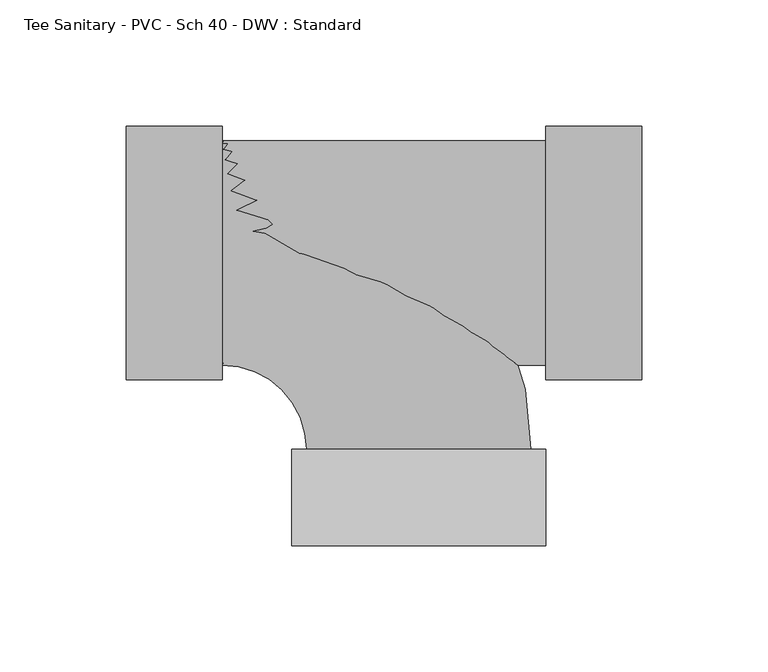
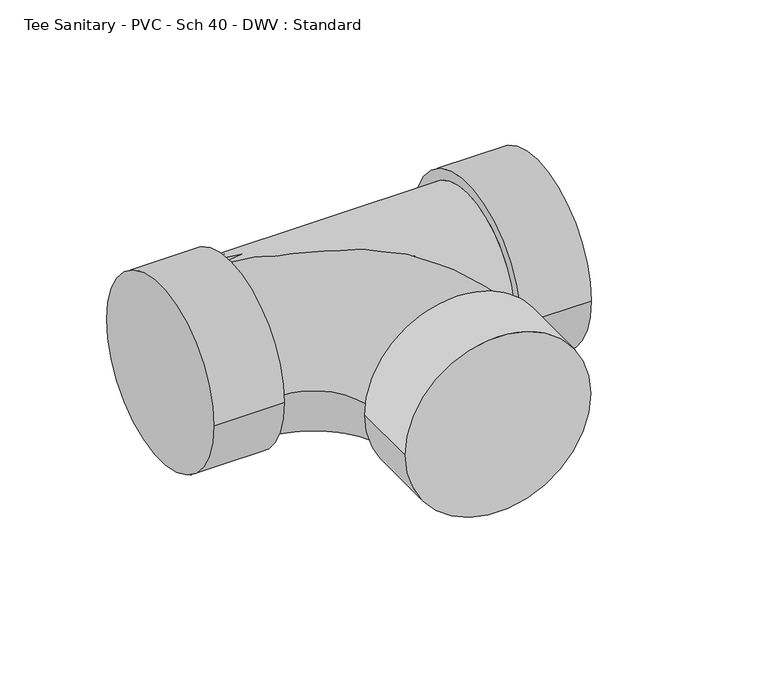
"""IFC4 building model written with IfcOpenShell, lengths in millimetres: pipe fitting geometry, Tee Sanitary - PVC - Sch 40 - DWV : Standard."""

from ifc_helpers import new_model, si_unit, point, frame, origin, place, context, project, spatial, circle_curve, ellipse_curve, trimmed, source, transform, mapped, element, save
from ifc_brep_helpers import plane_surface, cylinder_surface, revolved_surface, advanced_brep


def tee_sanitary_pvc_sch_40_dwv_standard_95650df0(model_context):
    return source(origin(), model_context, "Body", "AdvancedBrep", [
        advanced_brep(
        [(-77.8002, -44.45, 0.0), (-77.8002, 44.45, 0.0), (-44.4405858, -77.8055779, 0.0), (44.4594135, -77.794821, 0.0), (50.2806236, -115.8941169, 0.0), (-50.2525757, -115.9062814, 0.0), (50.2760135, -77.7941172, 0.0), (-50.2571858, -77.8062817, 0.0)],
        [
            (0, 1, circle_curve(frame((-77.8002, 0.0, 0.0), z_axis=(-1.0, 0.0, 0.0), x_axis=(0.0, 1.0, 0.0)), 44.45)),
            (1, 0, circle_curve(frame((-77.8002, 0.0, 0.0), z_axis=(-1.0, 0.0, 0.0), x_axis=(0.0, 1.0, 0.0)), 44.45)),
            (0, 2, circle_curve(frame((-77.8002, -77.8096144, 0.0), z_axis=(0.0, 0.0, -1.0), x_axis=(0.0, 1.0, 0.0)), 33.3596144)),
            (2, 3, circle_curve(frame((0.0094138, -77.8001994, 0.0), z_axis=(-0.00012100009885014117, 0.999999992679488, 0.0), x_axis=(0.999999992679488, 0.00012100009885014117, 0.0)), 44.45)),
            (3, 1, circle_curve(frame((-77.8002, -77.8096144, 0.0), z_axis=(0.0, 0.0, 1.0), x_axis=(0.0, 1.0, 0.0)), 122.2596144)),
            (3, 2, circle_curve(frame((0.0094138, -77.8001994, 0.0), z_axis=(-0.00012100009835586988, 0.9999999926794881, 0.0), x_axis=(0.9999999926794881, 0.00012100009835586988, 0.0)), 44.45)),
            (4, 5, circle_curve(frame((0.0140239, -115.9001992, 0.0), z_axis=(0.00012100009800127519, -0.9999999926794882, 0.0), x_axis=(-0.9999999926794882, -0.00012100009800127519, 0.0)), 50.2666)),
            (5, 4, circle_curve(frame((0.0140239, -115.9001992, 0.0), z_axis=(0.00012100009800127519, -0.9999999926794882, 0.0), x_axis=(-0.9999999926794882, -0.00012100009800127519, 0.0)), 50.2666)),
            (6, 7, circle_curve(frame((0.0094138, -77.8001994, 0.0), z_axis=(-0.00012100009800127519, 0.9999999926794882, 0.0), x_axis=(-0.9999999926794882, -0.00012100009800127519, 0.0)), 50.2666)),
            (7, 6, circle_curve(frame((0.0094138, -77.8001994, 0.0), z_axis=(-0.00012100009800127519, 0.9999999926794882, 0.0), x_axis=(-0.9999999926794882, -0.00012100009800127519, 0.0)), 50.2666)),
            (4, 6),
            (7, 5),
        ],
        [
            plane_surface(frame((-77.8002, 0.0, 0.0), z_axis=(-1.0, 0.0, 0.0), x_axis=(0.0, 0.0, 1.0))),
            revolved_surface(trimmed(ellipse_curve(frame((-77.8002, 0.0, 0.0), z_axis=(-1.0, 0.0, 0.0), x_axis=(0.0, 1.0, 0.0)), 44.45, 44.45), [point((-77.8002, -44.45, 0.0))], [point((-77.8002, 44.45, 0.0))], True, "CARTESIAN"), (-77.8002, -77.8096144, 0.0), (0.0, 0.0, -1.0)),
            revolved_surface(trimmed(ellipse_curve(frame((-77.8002, 0.0, 0.0), z_axis=(-1.0, 0.0, 0.0), x_axis=(0.0, 1.0, 0.0)), 44.45, 44.45), [point((-77.8002, 44.45, 0.0))], [point((-77.8002, -44.45, 0.0))], True, "CARTESIAN"), (-77.8002, -77.8096144, 0.0), (0.0, 0.0, -1.0)),
            plane_surface(frame((0.0140239, -115.9001992, 0.0), z_axis=(0.00012100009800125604, -0.9999999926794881, 0.0), x_axis=(0.0, 0.0, 1.0))),
            plane_surface(frame((0.0094138, -77.8001994, 0.0), z_axis=(-0.00012100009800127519, 0.9999999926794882, 0.0), x_axis=(0.0, 0.0, 1.0))),
            cylinder_surface(frame((0.0140239, -115.9001992, 0.0), z_axis=(0.00012100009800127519, -0.9999999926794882, 0.0), x_axis=(-0.9999999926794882, -0.00012100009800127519, 0.0)), 50.2666),
        ],
        [
            (0, [[1, 2]]),
            (1, [[-1, 3, 4, 5]]),
            (2, [[-2, -5, 6, -3]]),
            (3, [[7, 8]]),
            (4, [[9, 10], [-4, -6]]),
            (5, [[-7, 11, -10, 12]]),
            (5, [[-8, -12, -9, -11]]),
        ],
    ),
        advanced_brep(
        [(-77.8002, -44.45, 0.0), (50.2760135, -44.45, 0.0), (50.2760135, 44.45, 0.0), (-77.8002, 44.45, 0.0), (50.2760135, -50.2666, 0.0), (50.2760135, 50.2666, 0.0), (88.3760135, -50.2666, 0.0), (88.3760135, 50.2666, 0.0), (-115.9002, -50.2666, 0.0), (-115.9002, 50.2666, 0.0), (-77.8002, -50.2666, 0.0), (-77.8002, 50.2666, 0.0)],
        [
            (0, 1),
            (1, 2, circle_curve(frame((50.2760135, 0.0, 0.0), z_axis=(-1.0, 0.0, 0.0), x_axis=(0.0, 1.0, 0.0)), 44.45)),
            (2, 3),
            (3, 0, circle_curve(frame((-77.8002, 0.0, 0.0), z_axis=(1.0, 0.0, 0.0), x_axis=(0.0, 1.0, 0.0)), 44.45)),
            (0, 3, circle_curve(frame((-77.8002, 0.0, 0.0), z_axis=(1.0, 0.0, 0.0), x_axis=(0.0, 1.0, 0.0)), 44.45)),
            (2, 1, circle_curve(frame((50.2760135, 0.0, 0.0), z_axis=(-1.0, 0.0, 0.0), x_axis=(0.0, 1.0, 0.0)), 44.45)),
            (4, 5, circle_curve(frame((50.2760135, 0.0, 0.0), z_axis=(-1.0, 0.0, 0.0), x_axis=(0.0, 1.0, 0.0)), 50.2666)),
            (5, 4, circle_curve(frame((50.2760135, 0.0, 0.0), z_axis=(-1.0, 0.0, 0.0), x_axis=(0.0, 1.0, 0.0)), 50.2666)),
            (6, 7, circle_curve(frame((88.3760135, 0.0, 0.0), z_axis=(1.0, 0.0, 0.0), x_axis=(0.0, 1.0, 0.0)), 50.2666)),
            (7, 6, circle_curve(frame((88.3760135, 0.0, 0.0), z_axis=(1.0, 0.0, 0.0), x_axis=(0.0, 1.0, 0.0)), 50.2666)),
            (4, 6),
            (7, 5),
            (8, 9, circle_curve(frame((-115.9002, 0.0, 0.0), z_axis=(-1.0, 0.0, 0.0), x_axis=(0.0, 1.0, 0.0)), 50.2666)),
            (9, 8, circle_curve(frame((-115.9002, 0.0, 0.0), z_axis=(-1.0, 0.0, 0.0), x_axis=(0.0, 1.0, 0.0)), 50.2666)),
            (10, 11, circle_curve(frame((-77.8002, 0.0, 0.0), z_axis=(1.0, 0.0, 0.0), x_axis=(0.0, 1.0, 0.0)), 50.2666)),
            (11, 10, circle_curve(frame((-77.8002, 0.0, 0.0), z_axis=(1.0, 0.0, 0.0), x_axis=(0.0, 1.0, 0.0)), 50.2666)),
            (8, 10),
            (11, 9),
        ],
        [
            cylinder_surface(frame((-77.8002, 0.0, 0.0), z_axis=(-1.0, 0.0, 0.0), x_axis=(0.0, 1.0, 0.0)), 44.45),
            plane_surface(frame((50.2760135, 0.0, 0.0), z_axis=(-1.0, 0.0, 0.0), x_axis=(0.0, 0.0, 1.0))),
            plane_surface(frame((88.3760135, 0.0, 0.0), z_axis=(1.0, 0.0, 0.0), x_axis=(0.0, 0.0, 1.0))),
            cylinder_surface(frame((50.2760135, 0.0, 0.0), z_axis=(-1.0, 0.0, 0.0), x_axis=(0.0, 1.0, 0.0)), 50.2666),
            plane_surface(frame((-115.9002, 0.0, 0.0), z_axis=(-1.0, 0.0, 0.0), x_axis=(0.0, 0.0, 1.0))),
            plane_surface(frame((-77.8002, 0.0, 0.0), z_axis=(1.0, 0.0, 0.0), x_axis=(0.0, 0.0, 1.0))),
            cylinder_surface(frame((-115.9002, 0.0, 0.0), z_axis=(-1.0, 0.0, 0.0), x_axis=(0.0, 1.0, 0.0)), 50.2666),
        ],
        [
            (0, [[1, 2, 3, 4]]),
            (0, [[-1, 5, -3, 6]]),
            (1, [[7, 8], [-2, -6]]),
            (2, [[9, 10]]),
            (3, [[-7, 11, -10, 12]]),
            (3, [[-8, -12, -9, -11]]),
            (4, [[13, 14]]),
            (5, [[15, 16], [-4, -5]]),
            (6, [[-13, 17, -16, 18]]),
            (6, [[-14, -18, -15, -17]]),
        ],
    ),
    ])


if __name__ == "__main__":
    model = new_model("IFC4")
    model_context = context("Model", 3, world=origin())
    ifc_project = project(units=[si_unit("LENGTHUNIT", "METRE", prefix="MILLI")], contexts=[model_context])
    site = spatial("IfcSite", under=ifc_project)
    building = spatial("IfcBuilding", under=site)
    placement = place(None, origin())
    tee_sanitary_pvc_sch_40_dwv_standard_shape = tee_sanitary_pvc_sch_40_dwv_standard_95650df0(model_context)
    element("IfcPipeFitting", 1, ObjectType="Tee Sanitary - PVC - Sch 40 - DWV : Standard", at=placement, inside=building, context=model_context, shape_type="MappedRepresentation", body=[
        mapped(tee_sanitary_pvc_sch_40_dwv_standard_shape, transform((0.0, 0.0, 0.0), x_axis=(1.0, 0.0, 0.0), y_axis=(0.0, 1.0, 0.0), z_axis=(0.0, 0.0, 1.0))),
    ])
    save(model, "model.ifc")
